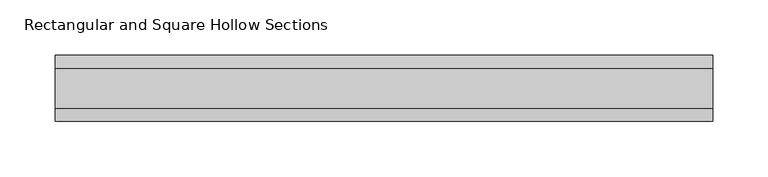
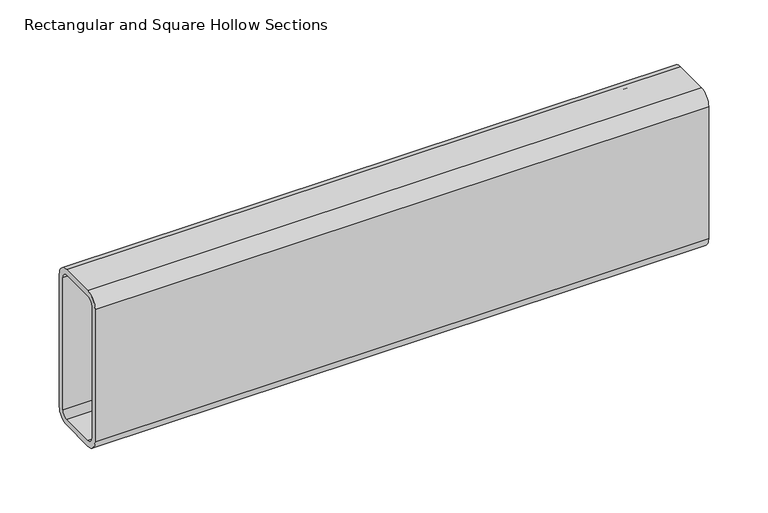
"""IFC4 building model written with IfcOpenShell, lengths in millimetres: beam geometry, Rectangular and Square Hollow Sections : TREC160x60x6."""

from ifc_helpers import new_model, si_unit, point, frame, frame_2d, origin, place, context, project, spatial, polyline, circle_curve, trimmed, segment, composite_curve, outline, extrude, source, transform, mapped, element, save


def rectangular_and_square_hollow_sections_a68a78e6(model_context):
    return source(origin(), model_context, "Body", "SweptSolid", [
        extrude(outline(composite_curve([segment(polyline([(30.0, 68.0), (30.0, -68.0)]), True, "CONTINUOUS"), segment(trimmed(circle_curve(frame_2d((18.0, -68.0)), 12.0), [point((30.0, -68.0))], [point((18.0, -80.0))], False, "CARTESIAN"), True, "CONTINUOUS"), segment(polyline([(18.0, -80.0), (-18.0, -80.0)]), True, "CONTINUOUS"), segment(trimmed(circle_curve(frame_2d((-18.0, -68.0)), 12.0), [point((-18.0, -80.0))], [point((-30.0, -68.0))], False, "CARTESIAN"), True, "CONTINUOUS"), segment(polyline([(-30.0, -68.0), (-30.0, 68.0)]), True, "CONTINUOUS"), segment(trimmed(circle_curve(frame_2d((-18.0, 68.0)), 12.0), [point((-30.0, 68.0))], [point((-18.0, 80.0))], False, "CARTESIAN"), True, "CONTINUOUS"), segment(polyline([(-18.0, 80.0), (18.0, 80.0)]), True, "CONTINUOUS"), segment(trimmed(circle_curve(frame_2d((18.0, 68.0)), 12.0), [point((18.0, 80.0))], [point((30.0, 68.0))], False, "CARTESIAN"), True, "CONTINUOUS")], self_intersect=False), holes=[composite_curve([segment(trimmed(circle_curve(frame_2d((-18.0, 68.0)), 6.0), [point((-18.0, 74.0))], [point((-24.0, 68.0))], True, "CARTESIAN"), True, "CONTINUOUS"), segment(polyline([(-24.0, 68.0), (-24.0, -68.0)]), True, "CONTINUOUS"), segment(trimmed(circle_curve(frame_2d((-18.0, -68.0)), 6.0), [point((-24.0, -68.0))], [point((-18.0, -74.0))], True, "CARTESIAN"), True, "CONTINUOUS"), segment(polyline([(-18.0, -74.0), (18.0, -74.0)]), True, "CONTINUOUS"), segment(trimmed(circle_curve(frame_2d((18.0, -68.0)), 6.0), [point((18.0, -74.0))], [point((24.0, -68.0))], True, "CARTESIAN"), True, "CONTINUOUS"), segment(polyline([(24.0, -68.0), (24.0, 68.0)]), True, "CONTINUOUS"), segment(trimmed(circle_curve(frame_2d((18.0, 68.0)), 6.0), [point((24.0, 68.0))], [point((18.0, 74.0))], True, "CARTESIAN"), True, "CONTINUOUS"), segment(polyline([(18.0, 74.0), (-18.0, 74.0)]), True, "CONTINUOUS")], self_intersect=False)]), frame((-275.5, 0.0, 0.0), z_axis=(1.0, 0.0, 0.0), x_axis=(0.0, 1.0, 0.0)), (0.0, 0.0, 1.0), 596.0),
    ])


if __name__ == "__main__":
    model = new_model("IFC4")
    model_context = context("Model", 3, world=origin())
    ifc_project = project(units=[si_unit("LENGTHUNIT", "METRE", prefix="MILLI")], contexts=[model_context])
    site = spatial("IfcSite", under=ifc_project)
    building = spatial("IfcBuilding", under=site)
    placement = place(None, origin())
    rectangular_and_square_hollow_sections_shape = rectangular_and_square_hollow_sections_a68a78e6(model_context)
    element("IfcBeam", 1, ObjectType="Rectangular and Square Hollow Sections : TREC160x60x6", at=placement, inside=building, context=model_context, shape_type="MappedRepresentation", body=[
        mapped(rectangular_and_square_hollow_sections_shape, transform((0.0, 0.0, 0.0), x_axis=(1.0, 0.0, 0.0), y_axis=(0.0, 1.0, 0.0), z_axis=(0.0, 0.0, 1.0))),
    ])
    save(model, "model.ifc")
